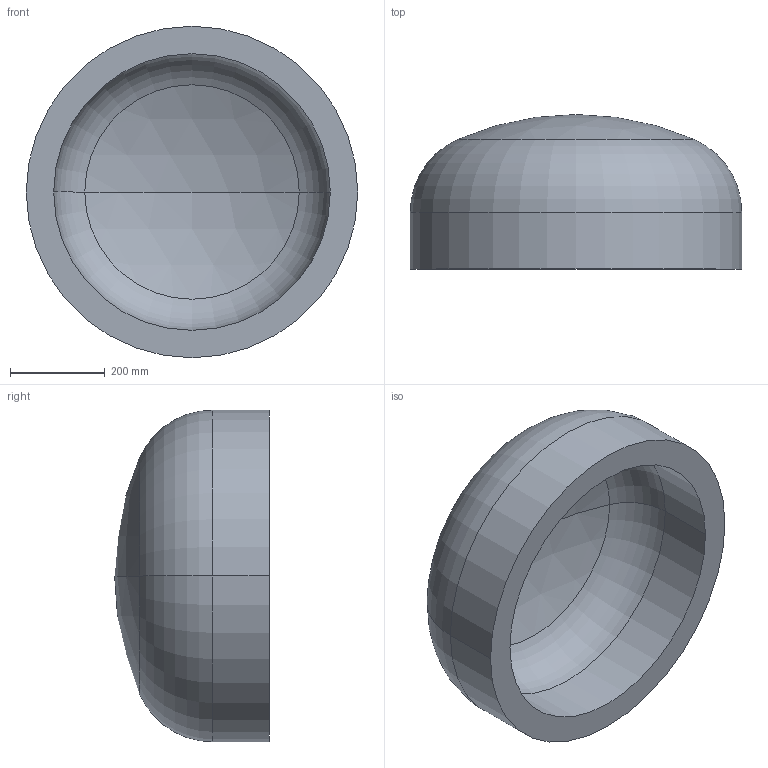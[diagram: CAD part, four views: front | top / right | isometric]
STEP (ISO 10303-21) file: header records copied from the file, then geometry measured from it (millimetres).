
FILE_DESCRIPTION (( 'STEP AP203' ), '1' );
FILE_NAME ('DIN 28013 Korbbogenform_-_Boden DIN 28013 - 700 x 120 - I - s=58.step', '2016-07-01T08:09:20', ( '' ), ( '' ), 'SwSTEP 2.0', 'SolidWorks 2013', '' );
FILE_SCHEMA (( 'CONFIG_CONTROL_DESIGN' ));
Length unit declared in the file: millimetre
Products named in the file (1): DIN 28013 Korbbogenform_-_Boden DIN 28013 - 700 x 120 - I - s=58
Bounding box: 700 x 326.45 x 700 mm (x, y, z)
Volume: 42023734.8 mm3; surface area: 1573120 mm2
Topology: 1 solids, 1 shells, 13 faces, 24 edges, 14 vertices
Faces by surface type: torus 4, cylinder 4, sphere 4, plane 1
Entity records: 407 total; most frequent: DIRECTION 72, CARTESIAN_POINT 52, ORIENTED_EDGE 48, AXIS2_PLACEMENT_3D 34, EDGE_CURVE 24, CIRCLE 20, EDGE_LOOP 14, VERTEX_POINT 14
